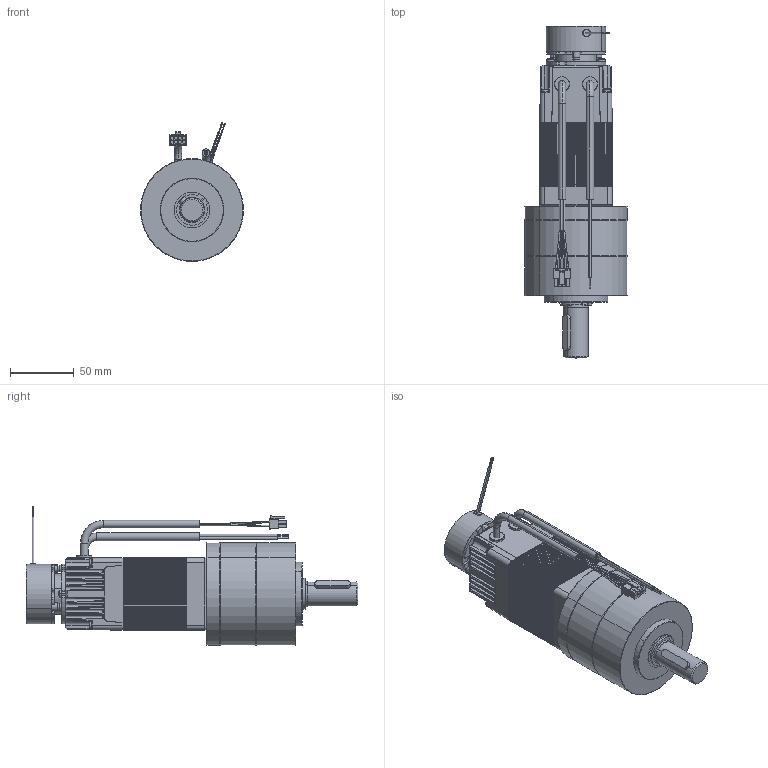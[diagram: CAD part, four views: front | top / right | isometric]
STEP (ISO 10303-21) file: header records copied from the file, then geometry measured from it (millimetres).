
FILE_DESCRIPTION((''),'2;1');
FILE_NAME('ENV_SIMP_STEP_TEMP','2012-10-24T',('VALJBL1'),('CROUZET-AUTOMATISMES'),'PRO/ENGINEER BY PARAMETRIC TECHNOLOGY CORPORATION, 2012090','PRO/ENGINEER BY PARAMETRIC TECHNOLOGY CORPORATION, 2012090','');
FILE_SCHEMA(('CONFIG_CONTROL_DESIGN'));
Products named in the file (1): ENV_SIMP_STEP_TEMP
Bounding box: 80.69 x 261.35 x 108.97 mm (x, y, z)
Surface area: 109048.6 mm2 (no closed solid volume)
Topology: 0 solids, 175 shells, 2045 faces, 5905 edges, 3915 vertices
Faces by surface type: plane 991, cylinder 884, sphere 52, cone 40, bspline 40, torus 38
Entity records: 67363 total; most frequent: CARTESIAN_POINT 15316, DIRECTION 11684, ORIENTED_EDGE 8555, EDGE_CURVE 5905, AXIS2_PLACEMENT_3D 3922, VERTEX_POINT 3915, VECTOR 3840, LINE 3840
